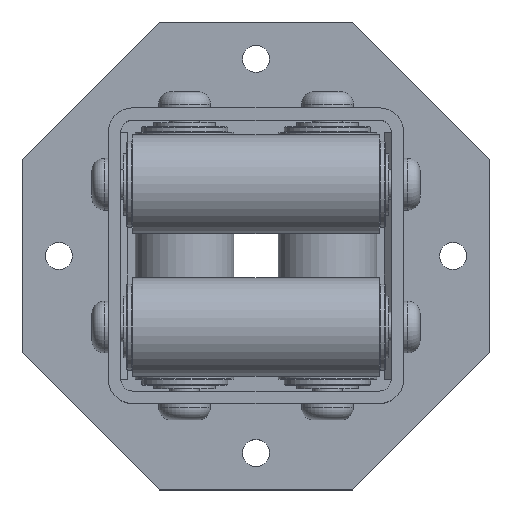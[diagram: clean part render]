
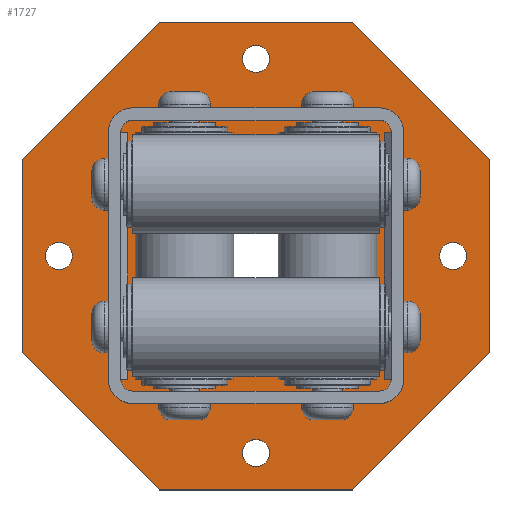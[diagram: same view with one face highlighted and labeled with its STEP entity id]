
A CAD part, top view. The second image highlights one B-rep face of the part: STEP entity #1727.
In plain terms, the highlighted planar face has unit normal (0, 0, 1).
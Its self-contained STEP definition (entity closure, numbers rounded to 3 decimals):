
#142=FACE_BOUND('',#460,.T.);
#143=FACE_BOUND('',#461,.T.);
#144=FACE_BOUND('',#462,.T.);
#145=FACE_BOUND('',#463,.T.);
#146=FACE_BOUND('',#464,.T.);
#179=CIRCLE('',#1975,42.5);
#181=CIRCLE('',#1978,5.5);
#182=CIRCLE('',#1979,5.5);
#184=CIRCLE('',#1982,5.5);
#185=CIRCLE('',#1983,5.5);
#187=CIRCLE('',#1986,5.5);
#188=CIRCLE('',#1987,5.5);
#190=CIRCLE('',#1990,5.5);
#191=CIRCLE('',#1991,5.5);
#370=FACE_OUTER_BOUND('',#459,.T.);
#459=EDGE_LOOP('',(#1286,#1287,#1288,#1289,#1290,#1291,#1292,#1293));
#460=EDGE_LOOP('',(#1294));
#461=EDGE_LOOP('',(#1295,#1296));
#462=EDGE_LOOP('',(#1297,#1298));
#463=EDGE_LOOP('',(#1299,#1300));
#464=EDGE_LOOP('',(#1301,#1302));
#587=LINE('',#2866,#705);
#590=LINE('',#2872,#708);
#593=LINE('',#2878,#711);
#596=LINE('',#2884,#714);
#599=LINE('',#2890,#717);
#602=LINE('',#2896,#720);
#605=LINE('',#2902,#723);
#608=LINE('',#2906,#726);
#705=VECTOR('',#2286,10.);
#708=VECTOR('',#2291,10.);
#711=VECTOR('',#2296,10.);
#714=VECTOR('',#2301,10.);
#717=VECTOR('',#2306,10.);
#720=VECTOR('',#2311,10.);
#723=VECTOR('',#2316,10.);
#726=VECTOR('',#2321,10.);
#810=VERTEX_POINT('',#2822);
#812=VERTEX_POINT('',#2828);
#813=VERTEX_POINT('',#2829);
#815=VERTEX_POINT('',#2836);
#816=VERTEX_POINT('',#2837);
#818=VERTEX_POINT('',#2844);
#819=VERTEX_POINT('',#2845);
#821=VERTEX_POINT('',#2852);
#822=VERTEX_POINT('',#2853);
#826=VERTEX_POINT('',#2863);
#827=VERTEX_POINT('',#2865);
#829=VERTEX_POINT('',#2871);
#831=VERTEX_POINT('',#2877);
#833=VERTEX_POINT('',#2883);
#835=VERTEX_POINT('',#2889);
#837=VERTEX_POINT('',#2895);
#839=VERTEX_POINT('',#2901);
#980=EDGE_CURVE('',#810,#810,#179,.T.);
#983=EDGE_CURVE('',#812,#813,#181,.T.);
#984=EDGE_CURVE('',#813,#812,#182,.T.);
#987=EDGE_CURVE('',#815,#816,#184,.T.);
#988=EDGE_CURVE('',#816,#815,#185,.T.);
#991=EDGE_CURVE('',#818,#819,#187,.T.);
#992=EDGE_CURVE('',#819,#818,#188,.T.);
#995=EDGE_CURVE('',#821,#822,#190,.T.);
#996=EDGE_CURVE('',#822,#821,#191,.T.);
#1001=EDGE_CURVE('',#827,#826,#587,.T.);
#1004=EDGE_CURVE('',#829,#827,#590,.T.);
#1007=EDGE_CURVE('',#831,#829,#593,.T.);
#1010=EDGE_CURVE('',#833,#831,#596,.T.);
#1013=EDGE_CURVE('',#835,#833,#599,.T.);
#1016=EDGE_CURVE('',#837,#835,#602,.T.);
#1019=EDGE_CURVE('',#839,#837,#605,.T.);
#1022=EDGE_CURVE('',#826,#839,#608,.T.);
#1286=ORIENTED_EDGE('',*,*,#1022,.T.);
#1287=ORIENTED_EDGE('',*,*,#1019,.T.);
#1288=ORIENTED_EDGE('',*,*,#1016,.T.);
#1289=ORIENTED_EDGE('',*,*,#1013,.T.);
#1290=ORIENTED_EDGE('',*,*,#1010,.T.);
#1291=ORIENTED_EDGE('',*,*,#1007,.T.);
#1292=ORIENTED_EDGE('',*,*,#1004,.T.);
#1293=ORIENTED_EDGE('',*,*,#1001,.T.);
#1294=ORIENTED_EDGE('',*,*,#980,.T.);
#1295=ORIENTED_EDGE('',*,*,#983,.T.);
#1296=ORIENTED_EDGE('',*,*,#984,.T.);
#1297=ORIENTED_EDGE('',*,*,#987,.T.);
#1298=ORIENTED_EDGE('',*,*,#988,.T.);
#1299=ORIENTED_EDGE('',*,*,#991,.T.);
#1300=ORIENTED_EDGE('',*,*,#992,.T.);
#1301=ORIENTED_EDGE('',*,*,#995,.T.);
#1302=ORIENTED_EDGE('',*,*,#996,.T.);
#1676=PLANE('',#2001);
#1727=ADVANCED_FACE('',(#370,#142,#143,#144,#145,#146),#1676,.T.);
#1975=AXIS2_PLACEMENT_3D('',#2823,#2241,#2242);
#1978=AXIS2_PLACEMENT_3D('',#2830,#2248,#2249);
#1979=AXIS2_PLACEMENT_3D('',#2831,#2250,#2251);
#1982=AXIS2_PLACEMENT_3D('',#2838,#2257,#2258);
#1983=AXIS2_PLACEMENT_3D('',#2839,#2259,#2260);
#1986=AXIS2_PLACEMENT_3D('',#2846,#2266,#2267);
#1987=AXIS2_PLACEMENT_3D('',#2847,#2268,#2269);
#1990=AXIS2_PLACEMENT_3D('',#2854,#2275,#2276);
#1991=AXIS2_PLACEMENT_3D('',#2855,#2277,#2278);
#2001=AXIS2_PLACEMENT_3D('',#2907,#2322,#2323);
#2241=DIRECTION('center_axis',(0.,0.,-1.));
#2242=DIRECTION('ref_axis',(-1.,0.,0.));
#2248=DIRECTION('center_axis',(0.,0.,-1.));
#2249=DIRECTION('ref_axis',(1.,0.,0.));
#2250=DIRECTION('center_axis',(0.,0.,-1.));
#2251=DIRECTION('ref_axis',(1.,0.,0.));
#2257=DIRECTION('center_axis',(0.,0.,-1.));
#2258=DIRECTION('ref_axis',(1.,0.,0.));
#2259=DIRECTION('center_axis',(0.,0.,-1.));
#2260=DIRECTION('ref_axis',(1.,0.,0.));
#2266=DIRECTION('center_axis',(0.,0.,-1.));
#2267=DIRECTION('ref_axis',(1.,0.,0.));
#2268=DIRECTION('center_axis',(0.,0.,-1.));
#2269=DIRECTION('ref_axis',(1.,0.,0.));
#2275=DIRECTION('center_axis',(0.,0.,-1.));
#2276=DIRECTION('ref_axis',(1.,0.,0.));
#2277=DIRECTION('center_axis',(0.,0.,-1.));
#2278=DIRECTION('ref_axis',(1.,0.,0.));
#2286=DIRECTION('',(-0.707,0.707,0.));
#2291=DIRECTION('',(0.,1.,0.));
#2296=DIRECTION('',(0.707,0.707,0.));
#2301=DIRECTION('',(1.,0.,0.));
#2306=DIRECTION('',(0.707,-0.707,0.));
#2311=DIRECTION('',(0.,-1.,0.));
#2316=DIRECTION('',(-0.707,-0.707,0.));
#2321=DIRECTION('',(-1.,0.,0.));
#2322=DIRECTION('center_axis',(0.,0.,1.));
#2323=DIRECTION('ref_axis',(1.,0.,0.));
#2822=CARTESIAN_POINT('',(42.5,0.,10.));
#2823=CARTESIAN_POINT('Origin',(0.,0.,10.));
#2828=CARTESIAN_POINT('',(5.5,80.,10.));
#2829=CARTESIAN_POINT('',(-5.5,80.,10.));
#2830=CARTESIAN_POINT('Origin',(0.,80.,10.));
#2831=CARTESIAN_POINT('Origin',(0.,80.,10.));
#2836=CARTESIAN_POINT('',(-74.5,0.,10.));
#2837=CARTESIAN_POINT('',(-85.5,0.,10.));
#2838=CARTESIAN_POINT('Origin',(-80.,0.,10.));
#2839=CARTESIAN_POINT('Origin',(-80.,0.,10.));
#2844=CARTESIAN_POINT('',(85.5,0.,10.));
#2845=CARTESIAN_POINT('',(74.5,0.,10.));
#2846=CARTESIAN_POINT('Origin',(80.,0.,10.));
#2847=CARTESIAN_POINT('Origin',(80.,0.,10.));
#2852=CARTESIAN_POINT('',(5.5,-80.,10.));
#2853=CARTESIAN_POINT('',(-5.5,-80.,10.));
#2854=CARTESIAN_POINT('Origin',(0.,-80.,10.));
#2855=CARTESIAN_POINT('Origin',(0.,-80.,10.));
#2863=CARTESIAN_POINT('',(39.35,95.,10.));
#2865=CARTESIAN_POINT('',(95.,39.35,10.));
#2866=CARTESIAN_POINT('',(95.,39.35,10.));
#2871=CARTESIAN_POINT('',(95.,-39.35,10.));
#2872=CARTESIAN_POINT('',(95.,-39.35,10.));
#2877=CARTESIAN_POINT('',(39.35,-95.,10.));
#2878=CARTESIAN_POINT('',(39.35,-95.,10.));
#2883=CARTESIAN_POINT('',(-39.35,-95.,10.));
#2884=CARTESIAN_POINT('',(-39.35,-95.,10.));
#2889=CARTESIAN_POINT('',(-95.,-39.35,10.));
#2890=CARTESIAN_POINT('',(-95.,-39.35,10.));
#2895=CARTESIAN_POINT('',(-95.,39.35,10.));
#2896=CARTESIAN_POINT('',(-95.,39.35,10.));
#2901=CARTESIAN_POINT('',(-39.35,95.,10.));
#2902=CARTESIAN_POINT('',(-39.35,95.,10.));
#2906=CARTESIAN_POINT('',(39.35,95.,10.));
#2907=CARTESIAN_POINT('Origin',(0.,0.,10.));
